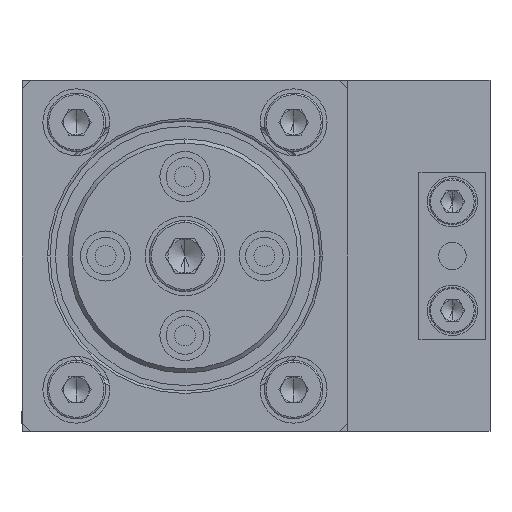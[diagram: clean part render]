
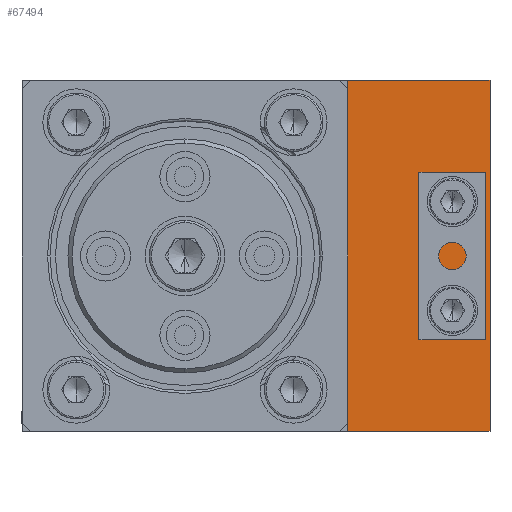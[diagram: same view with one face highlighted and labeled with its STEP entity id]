
A CAD part, left-side view. The second image highlights one B-rep face of the part: STEP entity #67494.
In plain terms, the highlighted planar face has unit normal (-1, 0, 0).
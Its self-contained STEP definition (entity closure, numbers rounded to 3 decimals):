
#4131 = EDGE_CURVE ( 'NONE', #37830, #35795, #58852, .T. ) ;
#4136 = EDGE_CURVE ( 'NONE', #37711, #35113, #58869, .T. ) ;
#4138 = EDGE_CURVE ( 'NONE', #35795, #35113, #58876, .T. ) ;
#4139 = EDGE_CURVE ( 'NONE', #37553, #37753, #58883, .T. ) ;
#4140 = EDGE_CURVE ( 'NONE', #38116, #37666, #58886, .T. ) ;
#7097 = CARTESIAN_POINT ( 'NONE',  ( -32., 17., -21. ) ) ;
#7098 = DIRECTION ( 'NONE',  ( 0., -1., 0. ) ) ;
#7595 = EDGE_LOOP ( 'NONE', ( #53260, #53262 ) ) ;
#7627 = EDGE_LOOP ( 'NONE', ( #53269, #53271, #53273, #53276 ) ) ;
#8085 = LINE ( 'NONE', #7097, #8086 ) ;
#8086 = VECTOR ( 'NONE', #7098, 1000. ) ;
#34642 = DIRECTION ( 'NONE',  ( 0., 0., 1. ) ) ;
#34796 = DIRECTION ( 'NONE',  ( -1., 0., 0. ) ) ;
#35113 = VERTEX_POINT ( 'NONE', #52994 ) ;
#35795 = VERTEX_POINT ( 'NONE', #53483 ) ;
#37553 = VERTEX_POINT ( 'NONE', #56623 ) ;
#37666 = VERTEX_POINT ( 'NONE', #56741 ) ;
#37711 = VERTEX_POINT ( 'NONE', #56786 ) ;
#37753 = VERTEX_POINT ( 'NONE', #56828 ) ;
#37830 = VERTEX_POINT ( 'NONE', #56905 ) ;
#38116 = VERTEX_POINT ( 'NONE', #57190 ) ;
#41896 = PLANE ( 'NONE',  #44602 ) ;
#41898 = CARTESIAN_POINT ( 'NONE',  ( -32., 17., -21. ) ) ;
#41900 = DIRECTION ( 'NONE',  ( -1., 0., 0. ) ) ;
#41902 = DIRECTION ( 'NONE',  ( 0., 0., 1. ) ) ;
#44602 = AXIS2_PLACEMENT_3D ( 'NONE', #41898, #41900, #41902 ) ;
#44932 = FACE_BOUND ( 'NONE', #47135, .T. ) ;
#44934 = FACE_BOUND ( 'NONE', #7595, .T. ) ;
#44935 = FACE_OUTER_BOUND ( 'NONE', #7627, .T. ) ;
#46837 = CARTESIAN_POINT ( 'NONE',  ( -32., 4.5, 6.5 ) ) ;
#46847 = DIRECTION ( 'NONE',  ( -1., 0., 0. ) ) ;
#46848 = DIRECTION ( 'NONE',  ( 0., 0., 1. ) ) ;
#46849 = CARTESIAN_POINT ( 'NONE',  ( -32., 4.5, -6.5 ) ) ;
#46858 = DIRECTION ( 'NONE',  ( -1., 0., 0. ) ) ;
#46859 = DIRECTION ( 'NONE',  ( 0., 0., 1. ) ) ;
#47135 = EDGE_LOOP ( 'NONE', ( #53265, #53267 ) ) ;
#48529 = CIRCLE ( 'NONE', #48829, 1.25 ) ;
#48536 = CIRCLE ( 'NONE', #48831, 1.25 ) ;
#48829 = AXIS2_PLACEMENT_3D ( 'NONE', #46837, #46847, #46848 ) ;
#48831 = AXIS2_PLACEMENT_3D ( 'NONE', #46849, #46858, #46859 ) ;
#51335 = EDGE_CURVE ( 'NONE', #37830, #37711, #8085, .T. ) ;
#52994 = CARTESIAN_POINT ( 'NONE',  ( -32., 0., 21. ) ) ;
#53260 = ORIENTED_EDGE ( 'NONE', *, *, #4139, .F. ) ;
#53262 = ORIENTED_EDGE ( 'NONE', *, *, #71728, .F. ) ;
#53265 = ORIENTED_EDGE ( 'NONE', *, *, #4140, .F. ) ;
#53267 = ORIENTED_EDGE ( 'NONE', *, *, #71722, .F. ) ;
#53269 = ORIENTED_EDGE ( 'NONE', *, *, #4136, .T. ) ;
#53271 = ORIENTED_EDGE ( 'NONE', *, *, #4138, .F. ) ;
#53273 = ORIENTED_EDGE ( 'NONE', *, *, #4131, .F. ) ;
#53276 = ORIENTED_EDGE ( 'NONE', *, *, #51335, .T. ) ;
#53483 = CARTESIAN_POINT ( 'NONE',  ( -32., 17., 21. ) ) ;
#56623 = CARTESIAN_POINT ( 'NONE',  ( -32., 4.5, -5.25 ) ) ;
#56741 = CARTESIAN_POINT ( 'NONE',  ( -32., 4.5, 5.25 ) ) ;
#56786 = CARTESIAN_POINT ( 'NONE',  ( -32., 0., -21. ) ) ;
#56828 = CARTESIAN_POINT ( 'NONE',  ( -32., 4.5, -7.75 ) ) ;
#56905 = CARTESIAN_POINT ( 'NONE',  ( -32., 17., -21. ) ) ;
#57190 = CARTESIAN_POINT ( 'NONE',  ( -32., 4.5, 7.75 ) ) ;
#58111 = AXIS2_PLACEMENT_3D ( 'NONE', #78747, #34796, #34642 ) ;
#58117 = AXIS2_PLACEMENT_3D ( 'NONE', #79258, #78740, #78741 ) ;
#58841 = VECTOR ( 'NONE', #78981, 1000. ) ;
#58850 = VECTOR ( 'NONE', #78762, 1000. ) ;
#58852 = LINE ( 'NONE', #78792, #58854 ) ;
#58854 = VECTOR ( 'NONE', #78787, 1000. ) ;
#58869 = LINE ( 'NONE', #79250, #58850 ) ;
#58876 = LINE ( 'NONE', #79108, #58841 ) ;
#58883 = CIRCLE ( 'NONE', #58117, 1.25 ) ;
#58886 = CIRCLE ( 'NONE', #58111, 1.25 ) ;
#67494 = ADVANCED_FACE ( 'NONE', ( #44934, #44932, #44935 ), #41896, .T. ) ;
#71722 = EDGE_CURVE ( 'NONE', #37666, #38116, #48529, .T. ) ;
#71728 = EDGE_CURVE ( 'NONE', #37753, #37553, #48536, .T. ) ;
#78740 = DIRECTION ( 'NONE',  ( -1., 0., 0. ) ) ;
#78741 = DIRECTION ( 'NONE',  ( 0., 0., 1. ) ) ;
#78747 = CARTESIAN_POINT ( 'NONE',  ( -32., 4.5, 6.5 ) ) ;
#78762 = DIRECTION ( 'NONE',  ( 0., 0., 1. ) ) ;
#78787 = DIRECTION ( 'NONE',  ( 0., 0., 1. ) ) ;
#78792 = CARTESIAN_POINT ( 'NONE',  ( -32., 17., -21. ) ) ;
#78981 = DIRECTION ( 'NONE',  ( 0., -1., 0. ) ) ;
#79108 = CARTESIAN_POINT ( 'NONE',  ( -32., 17., 21. ) ) ;
#79250 = CARTESIAN_POINT ( 'NONE',  ( -32., 0., -21. ) ) ;
#79258 = CARTESIAN_POINT ( 'NONE',  ( -32., 4.5, -6.5 ) ) ;
